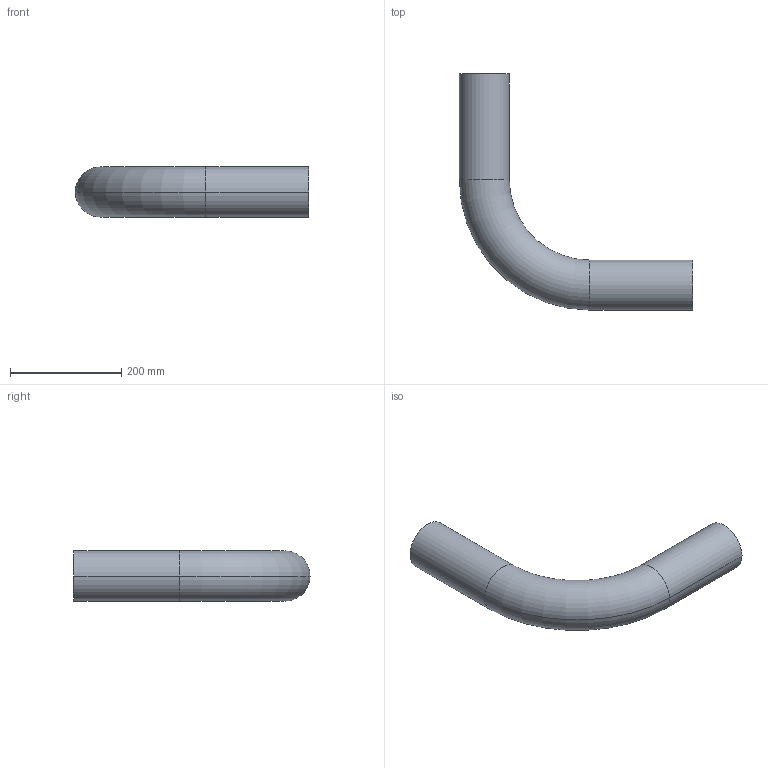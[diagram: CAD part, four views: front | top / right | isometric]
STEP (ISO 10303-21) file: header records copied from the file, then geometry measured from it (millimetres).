
FILE_DESCRIPTION (( 'STEP AP203' ), '1' );
FILE_NAME ('KP_3-90F.step', '2011-08-08T11:40:18', ( '' ), ( '' ), 'SwSTEP 2.0', 'SolidWorks 2011', '' );
FILE_SCHEMA (( 'CONFIG_CONTROL_DESIGN' ));
Length unit declared in the file: millimetre
Products named in the file (1): KP_3-90F
Bounding box: 420 x 425 x 90 mm (x, y, z)
Volume: 1542352.3 mm3; surface area: 347325.4 mm2
Topology: 1 solids, 1 shells, 14 faces, 28 edges, 16 vertices
Faces by surface type: cylinder 8, torus 4, plane 2
Entity records: 449 total; most frequent: DIRECTION 78, CARTESIAN_POINT 59, ORIENTED_EDGE 56, AXIS2_PLACEMENT_3D 35, EDGE_CURVE 28, CIRCLE 20, VERTEX_POINT 16, EDGE_LOOP 16
